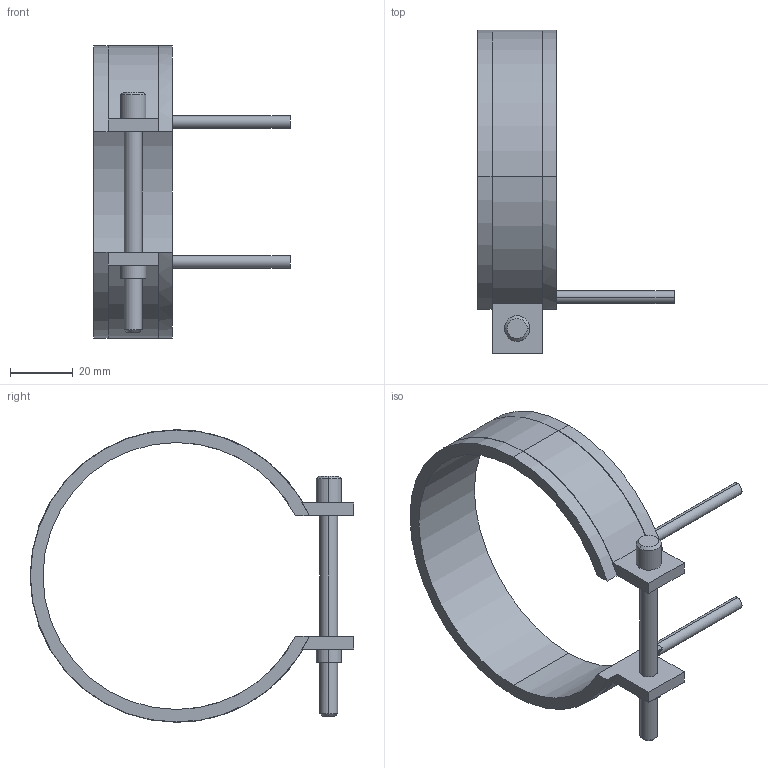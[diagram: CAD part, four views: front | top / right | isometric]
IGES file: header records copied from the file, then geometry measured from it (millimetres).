
Start section: START RECORD GO HERE.
Global section: file name: 14085025.igs; native system: DASSAULT SYSTEMES CATIA V5 R20 - www.3ds.com; preprocessor: CATIA Version 5 Release 20 ; author: Utente; organization: NB04-ASUS; date: 20210406.182449; units: millimetre
Bounding box: 62.5 x 103.1 x 93.2 mm (x, y, z)
Surface area: 17569.1 mm2 (no closed solid volume)
Topology: 0 solids, 0 shells, 45 faces, 232 edges, 232 vertices
Faces by surface type: revolution 28, plane 17
